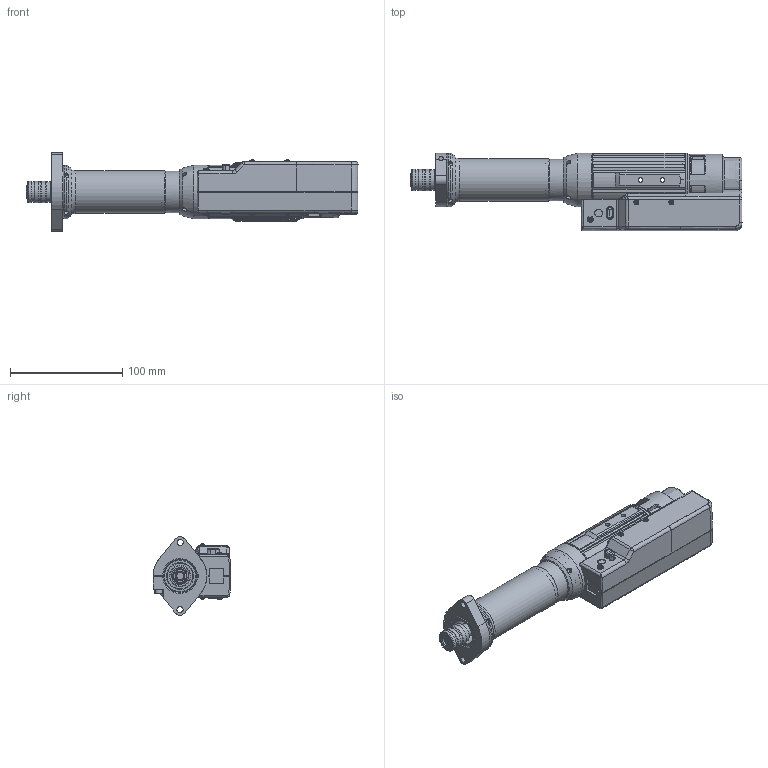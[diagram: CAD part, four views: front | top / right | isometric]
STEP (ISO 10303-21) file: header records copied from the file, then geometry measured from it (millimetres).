
FILE_DESCRIPTION(('STEP AP203'),'2;1');
FILE_NAME('EH2-R0005-SP.stp','2009-03-17T15:33:14',(''),(''),'2008.1.107','THINKDESIGN','');
FILE_SCHEMA(('CONFIG_CONTROL_DESIGN'));
Bounding box: 296.37 x 69.38 x 69.97 mm (x, y, z)
Volume: 134468.2 mm3; surface area: 188633.7 mm2
Topology: 27 solids, 27 shells, 1862 faces, 9161 edges, 8555 vertices
Faces by surface type: bspline 1204, plane 430, cylinder 228
Full cylindrical faces by diameter (mm): 1 x7, 1.5 x7, 1.6 x22, 2 x8, 2.2 x22, 2.5 x6, 2.6 x4, 3 x24, 3.5 x4, 4 x4, 4.1 x4, 4.2 x1, 5.5 x3, 6 x5, 7.5 x1, 9.2 x1, 11.5 x2, 12 x6, 13 x1, 13.2 x1, 14.6 x1, 15 x1, 15.4 x1, 16 x1, 16.2 x1, 17 x1, 18 x4, 18.2 x1, 19 x3, 20 x1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
Entity records: 155451 total; most frequent: CARTESIAN_POINT 117014, COMPOSITE_CURVE_SEGMENT 7125, DIRECTION 5058, B_SPLINE_CURVE_WITH_KNOTS 3925, ORIENTED_EDGE 3440, VECTOR 1916, LINE 1916, QUASI_UNIFORM_CURVE 1834
